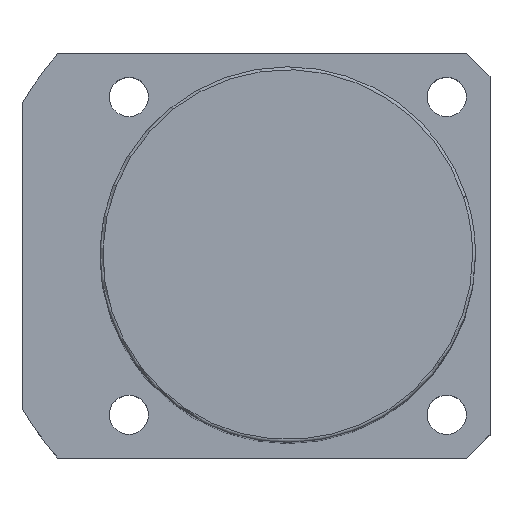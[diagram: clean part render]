
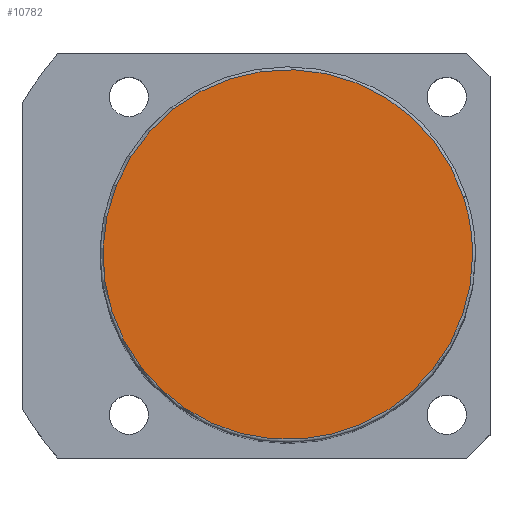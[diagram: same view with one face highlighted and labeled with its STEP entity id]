
A CAD part, top view. The second image highlights one B-rep face of the part: STEP entity #10782.
In plain terms, the highlighted planar face has unit normal (0, 0, 1).
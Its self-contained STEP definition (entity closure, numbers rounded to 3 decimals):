
#10748=CARTESIAN_POINT('',(32.0,0.0,141.0));
#10749=VERTEX_POINT('',#10748);
#10750=CARTESIAN_POINT('',(30.434,9.889,141.0));
#10751=VERTEX_POINT('',#10750);
#10752=CARTESIAN_POINT('',(0.0,0.0,141.0));
#10753=DIRECTION('',(0.0,0.0,1.0));
#10754=DIRECTION('',(1.0,0.0,0.0));
#10755=AXIS2_PLACEMENT_3D('',#10752,#10753,#10754);
#10756=CIRCLE('',#10755,32.0);
#10757=EDGE_CURVE('no 4954',#10749,#10751,#10756,.T.);
#10758=ORIENTED_EDGE('',*,*,#10757,.T.);
#10759=CARTESIAN_POINT('',(-30.434,-9.889,141.0));
#10760=VERTEX_POINT('',#10759);
#10761=CARTESIAN_POINT('',(0.0,0.0,141.0));
#10762=DIRECTION('',(0.0,0.0,1.0));
#10763=DIRECTION('',(1.0,0.0,0.0));
#10764=AXIS2_PLACEMENT_3D('',#10761,#10762,#10763);
#10765=CIRCLE('',#10764,32.0);
#10766=EDGE_CURVE('no 4960',#10751,#10760,#10765,.T.);
#10767=ORIENTED_EDGE('',*,*,#10766,.T.);
#10768=CARTESIAN_POINT('',(0.0,0.0,141.0));
#10769=DIRECTION('',(0.0,0.0,1.0));
#10770=DIRECTION('',(1.0,0.0,0.0));
#10771=AXIS2_PLACEMENT_3D('',#10768,#10769,#10770);
#10772=CIRCLE('',#10771,32.0);
#10773=EDGE_CURVE('no 4964',#10760,#10749,#10772,.T.);
#10774=ORIENTED_EDGE('',*,*,#10773,.T.);
#10775=EDGE_LOOP('',(#10758,#10767,#10774));
#10776=FACE_OUTER_BOUND('',#10775,.T.);
#10777=CARTESIAN_POINT('',(0.0,0.0,141.0));
#10778=DIRECTION('',(0.0,0.0,1.0));
#10779=DIRECTION('',(1.0,0.0,0.0));
#10780=AXIS2_PLACEMENT_3D('',#10777,#10778,#10779);
#10781=PLANE('',#10780);
#10782=ADVANCED_FACE('no 4945',(#10776),#10781,.T.);
